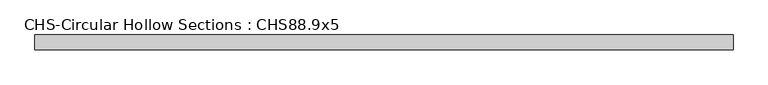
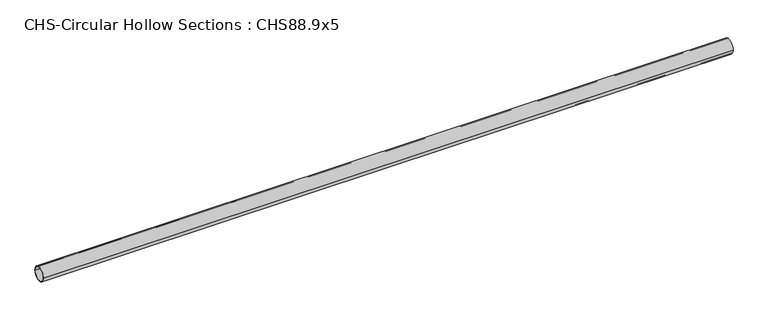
"""IFC4 building model written with IfcOpenShell, lengths in millimetres: beam geometry, CHS-Circular Hollow Sections : CHS88.9x5."""

import ifcopenshell
import ifcopenshell.guid

model = None  # the IFC model being written
_history = None  # IfcOwnerHistory: only IFC2X3 demands one
_inside = {}  # id of a spatial element -> (the spatial element, [elements in it])
_under = {}  # id of a project, library or spatial element -> (it, [spatial elements below it])
_declared = {}  # id of a project -> (the project, [libraries it declares])
_typed = {}  # id of a type object -> (the type object, [elements of that type])
_made_of = {}  # id of a material, layer set ... -> (it, [elements and type objects made of it])


def new_model(schema):
    """Start an empty IFC model of exactly this schema.

    Asked for "IFC4X3", IfcOpenShell would pick the latest addendum, in which some entities
    have other attributes; the version numbers below select the first issue.
    IFC2X3 requires an IfcOwnerHistory on every rooted entity: one is made here for all.
    """
    global model, _history
    if schema == "IFC4X3":
        model = ifcopenshell.file(schema_version=(4, 3, 0, 0))
    else:
        model = ifcopenshell.file(schema=schema)
    _inside.clear()
    _under.clear()
    _declared.clear()
    _typed.clear()
    _made_of.clear()
    _history = None
    if model.schema == "IFC2X3":
        org = make("IfcOrganization", Name="unknown")
        user = make(
            "IfcPersonAndOrganization",
            ThePerson=make("IfcPerson", FamilyName="unknown"),
            TheOrganization=org,
        )
        app = make(
            "IfcApplication",
            ApplicationDeveloper=org,
            Version="unknown",
            ApplicationFullName="unknown",
            ApplicationIdentifier="unknown",
        )
        _history = make(
            "IfcOwnerHistory",
            OwningUser=user,
            OwningApplication=app,
            ChangeAction="ADDED",
            CreationDate=0,
        )
    return model


def make(cls, **values):
    """One entity of the class cls with the attributes given. An attribute that is None is left unset."""
    return model.create_entity(
        cls, **{name: value for name, value in values.items() if value is not None}
    )


def rooted(cls, **values):
    """An entity with a GlobalId (a new one), such as an element, a storey or a relation."""
    return make(cls, GlobalId=ifcopenshell.guid.new(), OwnerHistory=_history, **values)


def si_unit(unit_type, name, prefix=None):
    """IfcSIUnit, for example si_unit("LENGTHUNIT", "METRE", prefix="MILLI")."""
    return make("IfcSIUnit", UnitType=unit_type, Prefix=prefix, Name=name)


def assignment(units):
    """IfcUnitAssignment: the units of a project."""
    return None if units is None else make("IfcUnitAssignment", Units=units)


def point(xyz):
    """IfcCartesianPoint."""
    return None if xyz is None else make("IfcCartesianPoint", Coordinates=xyz)


def direction(xyz):
    """IfcDirection."""
    return None if xyz is None else make("IfcDirection", DirectionRatios=xyz)


def frame(location, z_axis=None, x_axis=None):
    """IfcAxis2Placement3D, a coordinate frame: its origin and axes. An axis left out is left unset."""
    return make(
        "IfcAxis2Placement3D",
        Location=point(location),
        Axis=direction(z_axis),
        RefDirection=direction(x_axis),
    )


def frame_2d(location, x_axis=None):
    """IfcAxis2Placement2D, a coordinate frame in the plane: its origin and x axis."""
    return make(
        "IfcAxis2Placement2D", Location=point(location), RefDirection=direction(x_axis)
    )


def origin():
    """The frame at (0, 0, 0) with its axes left unset."""
    return frame((0.0, 0.0, 0.0))


def origin_2d():
    """The frame at (0, 0) in the plane with its x axis left unset."""
    return frame_2d((0.0, 0.0))


def place(relative_to, where):
    """IfcLocalPlacement: puts the frame where relative to a parent placement (None: the world)."""
    return make(
        "IfcLocalPlacement", PlacementRelTo=relative_to, RelativePlacement=where
    )


def context(
    kind, dimensions, precision=None, world=None, true_north=None, identifier=None
):
    """IfcGeometricRepresentationContext, for example the 3D "Model" context."""
    return make(
        "IfcGeometricRepresentationContext",
        ContextIdentifier=identifier,
        ContextType=kind,
        CoordinateSpaceDimension=dimensions,
        Precision=precision,
        WorldCoordinateSystem=world,
        TrueNorth=true_north,
    )


def project(units=None, contexts=None):
    """IfcProject with its units and contexts."""
    return rooted(
        "IfcProject",
        Name="project",
        RepresentationContexts=contexts,
        UnitsInContext=assignment(units),
    )


def spatial(cls, under=None, at=None, **own):
    """A site, building, storey or space (cls), placed at a placement, below another one or the project."""
    s = rooted(cls, ObjectPlacement=at, **own)
    if under is not None:
        _under.setdefault(under.id(), (under, []))[1].append(s)
    return s


def circle_curve(where, radius):
    """IfcCircle in the frame where."""
    return make("IfcCircle", Position=where, Radius=radius)


def trimmed(basis, trim1, trim2, sense, master):
    """IfcTrimmedCurve: the piece of a basis curve between two trims."""
    return make(
        "IfcTrimmedCurve",
        BasisCurve=basis,
        Trim1=trim1,
        Trim2=trim2,
        SenseAgreement=sense,
        MasterRepresentation=master,
    )


def segment(curve, same_sense, transition):
    """IfcCompositeCurveSegment."""
    return make(
        "IfcCompositeCurveSegment",
        Transition=transition,
        SameSense=same_sense,
        ParentCurve=curve,
    )


def composite_curve(segments, self_intersect=None):
    """IfcCompositeCurve: segments joined end to end."""
    return make("IfcCompositeCurve", Segments=segments, SelfIntersect=self_intersect)


def outline(outer, holes=None, kind="AREA"):
    """IfcArbitraryClosedProfileDef: a profile drawn as a closed curve; with holes, ...WithVoids."""
    if holes is None:
        return make("IfcArbitraryClosedProfileDef", ProfileType=kind, OuterCurve=outer)
    return make(
        "IfcArbitraryProfileDefWithVoids",
        ProfileType=kind,
        OuterCurve=outer,
        InnerCurves=holes,
    )


def extrude(swept, where, along, depth):
    """IfcExtrudedAreaSolid: the profile swept, set in the frame where, extruded along a direction by depth."""
    return make(
        "IfcExtrudedAreaSolid",
        SweptArea=swept,
        Position=where,
        ExtrudedDirection=direction(along),
        Depth=depth,
    )


def shape(context_of_items, identifier, shape_type, items):
    """IfcShapeRepresentation: the items that make up one representation, for example the "Body"."""
    return make(
        "IfcShapeRepresentation",
        ContextOfItems=context_of_items,
        RepresentationIdentifier=identifier,
        RepresentationType=shape_type,
        Items=items,
    )


def source(mapping_origin, context_of_items, identifier, shape_type, items):
    """IfcRepresentationMap: a shape defined once, which mapped items show again and again."""
    return make(
        "IfcRepresentationMap",
        MappingOrigin=mapping_origin,
        MappedRepresentation=shape(context_of_items, identifier, shape_type, items),
    )


def transform(
    local_origin,
    x_axis=None,
    y_axis=None,
    z_axis=None,
    scale=None,
    scale2=None,
    scale3=None,
    uniform=True,
):
    """IfcCartesianTransformationOperator3D, or its non-uniform kind. x_axis, y_axis, z_axis: its Axis1, 2, 3."""
    if uniform:
        return make(
            "IfcCartesianTransformationOperator3D",
            Axis1=direction(x_axis),
            Axis2=direction(y_axis),
            LocalOrigin=point(local_origin),
            Scale=scale,
            Axis3=direction(z_axis),
        )
    return make(
        "IfcCartesianTransformationOperator3DnonUniform",
        Axis1=direction(x_axis),
        Axis2=direction(y_axis),
        LocalOrigin=point(local_origin),
        Scale=scale,
        Axis3=direction(z_axis),
        Scale2=scale2,
        Scale3=scale3,
    )


def mapped(mapping_source, mapping_target):
    """IfcMappedItem: shows the shape of a source again, moved by a transform."""
    return make(
        "IfcMappedItem", MappingSource=mapping_source, MappingTarget=mapping_target
    )


def made_of(thing, what):
    """Note that an element or type object is made of a material, layer set ...; save() writes the relation."""
    if what is not None:
        _made_of.setdefault(what.id(), (what, []))[1].append(thing)
    return thing


def element(
    cls,
    number,
    at=None,
    inside=None,
    cuts=None,
    type_object=None,
    material=None,
    context=None,
    identifier="Body",
    shape_type=None,
    held_by="IfcProductDefinitionShape",
    body=None,
    shapes=None,
    **own,
):
    """One element of the class cls, such as IfcWall. Its Tag is "e" and its number.

    at: its placement. inside: the storey or other place that contains it. cuts: it is an
    opening in that element (IfcRelVoidsElement). A single representation is given by context,
    identifier, shape_type and body (its items); several are given by shapes. held_by: the class
    of the entity that holds the representations. save() writes the other relations.
    """
    e = rooted(cls, Tag="e%d" % number, ObjectPlacement=at, **own)
    if body is not None:
        shapes = [shape(context, identifier, shape_type, body)]
    if shapes is not None:
        e.Representation = make(held_by, Representations=shapes)
    if inside is not None:
        _inside.setdefault(inside.id(), (inside, []))[1].append(e)
    if cuts is not None:
        rooted(
            "IfcRelVoidsElement", RelatingBuildingElement=cuts, RelatedOpeningElement=e
        )
    if type_object is not None:
        _typed.setdefault(type_object.id(), (type_object, []))[1].append(e)
    return made_of(e, material)


def aggregate(whole, parts):
    """IfcRelAggregates: a whole, such as a stair, and the parts it consists of."""
    return rooted("IfcRelAggregates", RelatingObject=whole, RelatedObjects=parts)


def save(model, path):
    """Write the relations noted so far, then the file.

    IfcRelAggregates (storeys below a building ...), IfcRelContainedInSpatialStructure (elements
    in a storey), IfcRelDefinesByType, IfcRelAssociatesMaterial and IfcRelDeclares: one each for
    every whole, place, type object, material and project.
    """
    for whole, parts in _under.values():
        aggregate(whole, parts)
    for where, things in _inside.values():
        rooted(
            "IfcRelContainedInSpatialStructure",
            RelatedElements=things,
            RelatingStructure=where,
        )
    for kind, things in _typed.values():
        rooted("IfcRelDefinesByType", RelatedObjects=things, RelatingType=kind)
    for what, things in _made_of.values():
        rooted("IfcRelAssociatesMaterial", RelatedObjects=things, RelatingMaterial=what)
    for by, libraries in _declared.values():
        rooted("IfcRelDeclares", RelatingContext=by, RelatedDefinitions=libraries)
    model.write(path)


def chs_circular_hollow_sections_chs88_9x5_9497e3e4(model_context):
    return source(origin(), model_context, "Body", "SweptSolid", [
        extrude(outline(composite_curve([segment(trimmed(circle_curve(origin_2d(), 44.45), [point((-44.45, 0.0))], [point((44.45, 0.0))], False, "CARTESIAN"), True, "CONTINUOUS"), segment(trimmed(circle_curve(origin_2d(), 44.45), [point((44.45, 0.0))], [point((-44.45, 0.0))], False, "CARTESIAN"), True, "CONTINUOUS")], self_intersect=False), holes=[composite_curve([segment(trimmed(circle_curve(origin_2d(), 39.45), [point((39.45, 0.0))], [point((-39.45, 0.0))], True, "CARTESIAN"), True, "CONTINUOUS"), segment(trimmed(circle_curve(origin_2d(), 39.45), [point((-39.45, 0.0))], [point((39.45, 0.0))], True, "CARTESIAN"), True, "CONTINUOUS")], self_intersect=False)]), frame((-2050.5, 0.0, 0.0), z_axis=(1.0, 0.0, 0.0), x_axis=(0.0, 1.0, 0.0)), (0.0, 0.0, 1.0), 4207.0),
    ])


if __name__ == "__main__":
    model = new_model("IFC4")
    model_context = context("Model", 3, world=origin())
    ifc_project = project(units=[si_unit("LENGTHUNIT", "METRE", prefix="MILLI")], contexts=[model_context])
    site = spatial("IfcSite", under=ifc_project)
    building = spatial("IfcBuilding", under=site)
    placement = place(None, origin())
    chs_circular_hollow_sections_chs88_9x5_shape = chs_circular_hollow_sections_chs88_9x5_9497e3e4(model_context)
    element("IfcBeam", 1, ObjectType="CHS-Circular Hollow Sections : CHS88.9x5", at=placement, inside=building, context=model_context, shape_type="MappedRepresentation", body=[
        mapped(chs_circular_hollow_sections_chs88_9x5_shape, transform((0.0, 0.0, 0.0), x_axis=(1.0, 0.0, 0.0), y_axis=(0.0, 1.0, 0.0), z_axis=(0.0, 0.0, 1.0))),
    ])
    save(model, "model.ifc")
